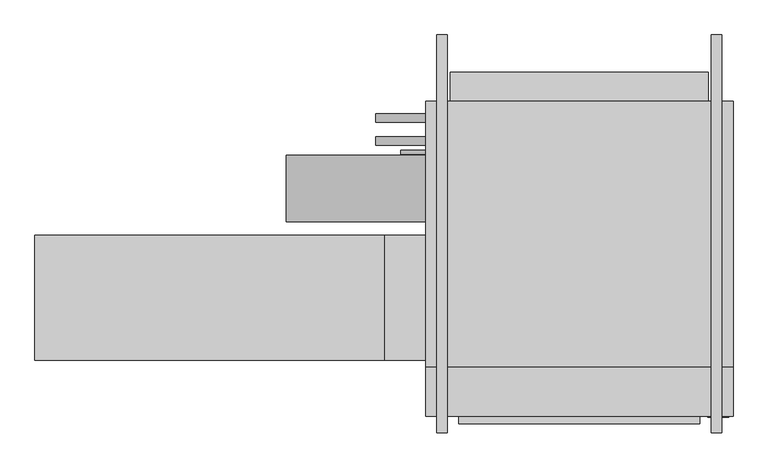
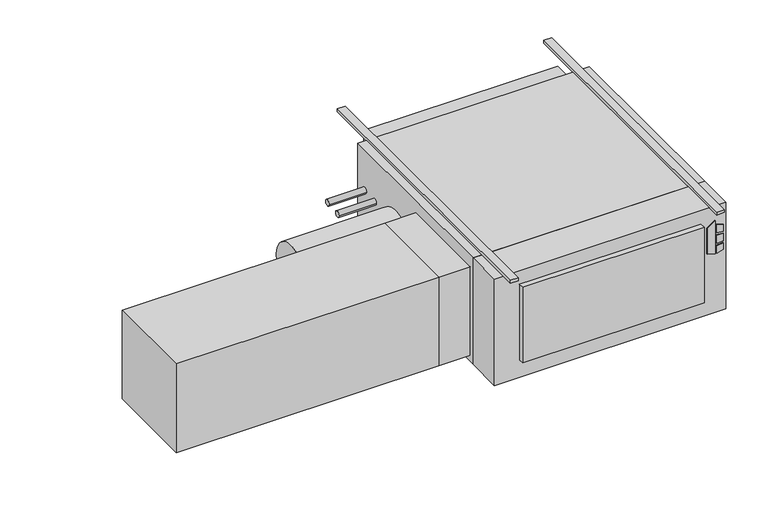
"""IFC4 building model written with IfcOpenShell, lengths in millimetres: proxy geometry."""

from ifc_helpers import new_model, si_unit, point, frame, frame_2d, origin, origin_with_axes, place, context, project, spatial, polyline, circle_curve, trimmed, segment, composite_curve, outline, extrude, source, transform, mapped, element, save


def mechanical_equipment_2120fcd1(model_context):
    return source(origin(), model_context, "Body", "SweptSolid", [
        extrude(outline(polyline([(-193.2519297, 544.5868862), (-203.2, 576.7602728), (-61.0290756, 576.7602728), (-84.0510817, 544.5868862), (-193.2519297, 544.5868862)])), frame((0.0, -797.052, 0.0), z_axis=(0.0, 1.0, 0.0), x_axis=(0.0, 0.0, 1.0)), (0.0, 0.0, 1.0), 3.175),
        extrude(outline(polyline([(-114.2526443, 583.5186058), (-117.4550368, 609.6), (-88.2261958, 609.6), (-80.1617807, 583.5186058), (-114.2526443, 583.5186058)])), frame((0.0, -797.052, 0.0), z_axis=(0.0, 1.0, 0.0), x_axis=(0.0, 0.0, 1.0)), (0.0, 0.0, 1.0), 3.175),
        extrude(outline(polyline([(-166.1161712, 609.6), (-169.7816721, 583.5186058), (-203.2, 583.5186058), (-194.5657628, 609.6), (-166.1161712, 609.6)])), frame((0.0, -797.052, 0.0), z_axis=(0.0, 1.0, 0.0), x_axis=(0.0, 0.0, 1.0)), (0.0, 0.0, 1.0), 3.175),
        extrude(outline(polyline([(-126.8010097, 609.6), (-124.5191834, 583.5186058), (-160.4567319, 583.5186058), (-157.7154669, 609.6), (-126.8010097, 609.6)])), frame((0.0, -797.052, 0.0), z_axis=(0.0, 1.0, 0.0), x_axis=(0.0, 0.0, 1.0)), (0.0, 0.0, 1.0), 3.175),
        extrude(outline(polyline([(622.3, -793.877), (-317.5, -793.877), (-317.5, -644.525), (622.3, -644.525), (622.3, -793.877)])), frame((0.0, 0.0, -457.2), z_axis=(0.0, 0.0, 1.0), x_axis=(1.0, 0.0, 0.0)), (0.0, 0.0, 1.0), 457.2),
        extrude(outline(polyline([(520.7, -816.229), (-215.9, -816.229), (-215.9, -793.877), (520.7, -793.877), (520.7, -816.229)])), frame((0.0, 0.0, -381.0), z_axis=(0.0, 0.0, 1.0), x_axis=(1.0, 0.0, 0.0)), (0.0, 0.0, 1.0), 323.85),
        extrude(outline(polyline([(-1511.3, -622.3), (-1511.3, -241.3), (-444.5, -241.3), (-444.5, -622.3), (-1511.3, -622.3)])), frame((0.0, 0.0, -431.8), z_axis=(0.0, 0.0, 1.0), x_axis=(1.0, 0.0, 0.0)), (0.0, 0.0, 1.0), 381.0),
        extrude(outline(polyline([(-317.5, -241.3), (-317.5, -622.3), (-444.5, -622.3), (-444.5, -241.3), (-317.5, -241.3)])), frame((0.0, 0.0, -431.8), z_axis=(0.0, 0.0, 1.0), x_axis=(1.0, 0.0, 0.0)), (0.0, 0.0, 1.0), 381.0),
        extrude(outline(composite_curve([segment(trimmed(circle_curve(frame_2d((-98.4896516, -228.6360165)), 101.6), [point((-200.0896516, -228.6360165))], [point((3.1103484, -228.6360165))], False, "CARTESIAN"), True, "CONTINUOUS"), segment(trimmed(circle_curve(frame_2d((-98.4896516, -228.6360165)), 101.6), [point((3.1103484, -228.6360165))], [point((-200.0896516, -228.6360165))], False, "CARTESIAN"), True, "CONTINUOUS")], self_intersect=False)), frame((-742.95, 0.0, 0.0), z_axis=(1.0, 0.0, 0.0), x_axis=(0.0, 1.0, 0.0)), (0.0, 0.0, 1.0), 425.45),
        extrude(outline(composite_curve([segment(trimmed(circle_curve(frame_2d((47.625, -177.8)), 12.7), [point((34.925, -177.8))], [point((60.325, -177.8))], False, "CARTESIAN"), True, "CONTINUOUS"), segment(trimmed(circle_curve(frame_2d((47.625, -177.8)), 12.7), [point((60.325, -177.8))], [point((34.925, -177.8))], False, "CARTESIAN"), True, "CONTINUOUS")], self_intersect=False)), frame((-469.9, 0.0, 0.0), z_axis=(1.0, 0.0, 0.0), x_axis=(0.0, 1.0, 0.0)), (0.0, 0.0, 1.0), 152.4),
        extrude(outline(composite_curve([segment(trimmed(circle_curve(frame_2d((117.475, -171.45)), 12.7), [point((104.775, -171.45))], [point((130.175, -171.45))], False, "CARTESIAN"), True, "CONTINUOUS"), segment(trimmed(circle_curve(frame_2d((117.475, -171.45)), 12.7), [point((130.175, -171.45))], [point((104.775, -171.45))], False, "CARTESIAN"), True, "CONTINUOUS")], self_intersect=False)), frame((-469.9, 0.0, 0.0), z_axis=(1.0, 0.0, 0.0), x_axis=(0.0, 1.0, 0.0)), (0.0, 0.0, 1.0), 152.4),
        extrude(outline(composite_curve([segment(trimmed(circle_curve(frame_2d((12.7, -409.575)), 6.35), [point((6.35, -409.575))], [point((19.05, -409.575))], False, "CARTESIAN"), True, "CONTINUOUS"), segment(trimmed(circle_curve(frame_2d((12.7, -409.575)), 6.35), [point((19.05, -409.575))], [point((6.35, -409.575))], False, "CARTESIAN"), True, "CONTINUOUS")], self_intersect=False)), frame((-393.7, 0.0, 0.0), z_axis=(1.0, 0.0, 0.0), x_axis=(0.0, 1.0, 0.0)), (0.0, 0.0, 1.0), 76.2),
        extrude(outline(polyline([(622.3, 168.275), (622.3, -644.525), (-317.5, -644.525), (-317.5, 168.275), (622.3, 168.275)])), frame((0.0, 0.0, -457.2), z_axis=(0.0, 0.0, 1.0), x_axis=(1.0, 0.0, 0.0)), (0.0, 0.0, 1.0), 457.2),
        extrude(outline(polyline([(-241.3, 257.175), (546.1, 257.175), (546.1, 168.275), (-241.3, 168.275), (-241.3, 257.175)])), frame((0.0, 0.0, -381.0), z_axis=(0.0, 0.0, 1.0), x_axis=(1.0, 0.0, 0.0)), (0.0, 0.0, 1.0), 355.6),
        extrude(outline(polyline([(-250.825, 371.475), (-250.825, -844.677), (-282.575, -844.677), (-282.575, 371.475), (-250.825, 371.475)])), origin_with_axes(), (0.0, 0.0, 1.0), 12.7),
        extrude(outline(polyline([(587.375, 371.475), (587.375, -844.677), (555.625, -844.677), (555.625, 371.475), (587.375, 371.475)])), origin_with_axes(), (0.0, 0.0, 1.0), 12.7),
    ])


if __name__ == "__main__":
    model = new_model("IFC4")
    model_context = context("Model", 3, world=origin())
    ifc_project = project(units=[si_unit("LENGTHUNIT", "METRE", prefix="MILLI")], contexts=[model_context])
    site = spatial("IfcSite", under=ifc_project)
    building = spatial("IfcBuilding", under=site)
    placement = place(None, origin())
    mechanical_equipment_shape = mechanical_equipment_2120fcd1(model_context)
    element("IfcBuildingElementProxy", 1, Name="High_Capacity_Horizontal_Cabinet_Fan_Coil_Unit_-_HTY_-_IEC_-_2 Pipe, Elec Heat_WO-Attenuator_LH Side_2022 : Size 12 - 277v/60Hz/1Ph - 8/0 Coil 9.0kW - 8\" AirIn", ObjectType="High_Capacity_Horizontal_Cabinet_Fan_Coil_Unit_-_HTY_-_IEC_-_2 Pipe, Elec Heat_WO-Attenuator_LH Side_2022 : Size 12 - 277v/60Hz/1Ph - 8/0 Coil 9.0kW - 8\" AirIn", at=placement, inside=building, context=model_context, shape_type="MappedRepresentation", body=[
        mapped(mechanical_equipment_shape, transform((0.0, 0.0, 0.0), x_axis=(1.0, 0.0, 0.0), y_axis=(0.0, 1.0, 0.0), z_axis=(0.0, 0.0, 1.0))),
    ])
    save(model, "model.ifc")
